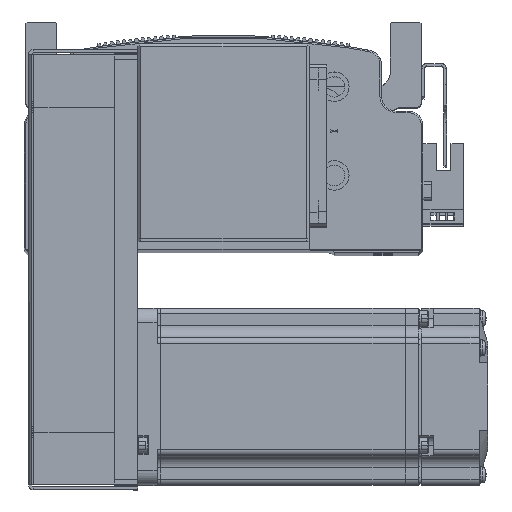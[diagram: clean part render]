
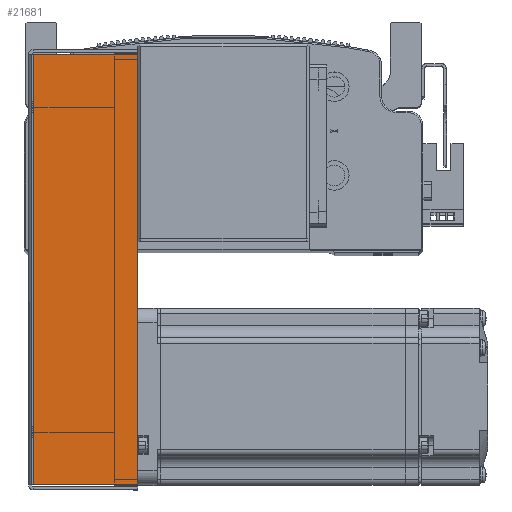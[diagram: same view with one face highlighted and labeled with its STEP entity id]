
A CAD part, top view. The second image highlights one B-rep face of the part: STEP entity #21681.
In plain terms, the highlighted planar face has unit normal (0, 0, 1) as drawn and (0, 0, -1) by its records, which use the part's own axes.
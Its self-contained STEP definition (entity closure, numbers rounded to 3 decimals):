
#8745 = CARTESIAN_POINT ( 'NONE',  ( 72.793, 0.737, -34.5 ) ) ;
#8770 = CARTESIAN_POINT ( 'NONE',  ( -72.793, 36., -34.5 ) ) ;
#8830 = CARTESIAN_POINT ( 'NONE',  ( 72.793, 36., -34.5 ) ) ;
#8891 = CARTESIAN_POINT ( 'NONE',  ( -72.793, 0.737, -34.5 ) ) ;
#12582 = VERTEX_POINT ( 'NONE', #8770 ) ;
#12620 = VERTEX_POINT ( 'NONE', #8830 ) ;
#12647 = VERTEX_POINT ( 'NONE', #8745 ) ;
#12706 = VERTEX_POINT ( 'NONE', #8891 ) ;
#21681 = ADVANCED_FACE ( 'NONE', ( #66934 ), #41409, .F. ) ;
#41409 = PLANE ( 'NONE',  #57512 ) ;
#41426 = CARTESIAN_POINT ( 'NONE',  ( 0., 0., -34.5 ) ) ;
#41458 = DIRECTION ( 'NONE',  ( 0., 0., 1. ) ) ;
#41490 = DIRECTION ( 'NONE',  ( 0., -1., 0. ) ) ;
#43743 = CARTESIAN_POINT ( 'NONE',  ( -72.793, 0., -34.5 ) ) ;
#43761 = DIRECTION ( 'NONE',  ( 0., 1., 0. ) ) ;
#43762 = DIRECTION ( 'NONE',  ( 1., 0., 0. ) ) ;
#43770 = CARTESIAN_POINT ( 'NONE',  ( 0., 36., -34.5 ) ) ;
#44066 = DIRECTION ( 'NONE',  ( 1., 0., 0. ) ) ;
#44087 = CARTESIAN_POINT ( 'NONE',  ( 74.5, 0.737, -34.5 ) ) ;
#44102 = CARTESIAN_POINT ( 'NONE',  ( 72.793, 0., -34.5 ) ) ;
#44130 = DIRECTION ( 'NONE',  ( 0., 1., 0. ) ) ;
#50329 = ORIENTED_EDGE ( 'NONE', *, *, #71917, .T. ) ;
#50368 = ORIENTED_EDGE ( 'NONE', *, *, #71919, .T. ) ;
#50408 = ORIENTED_EDGE ( 'NONE', *, *, #72026, .F. ) ;
#50416 = ORIENTED_EDGE ( 'NONE', *, *, #72037, .F. ) ;
#52041 = EDGE_LOOP ( 'NONE', ( #50408, #50329, #50368, #50416 ) ) ;
#53453 = LINE ( 'NONE', #43743, #53484 ) ;
#53481 = LINE ( 'NONE', #43770, #53498 ) ;
#53484 = VECTOR ( 'NONE', #43761, 1000. ) ;
#53498 = VECTOR ( 'NONE', #43762, 1000. ) ;
#53653 = VECTOR ( 'NONE', #44066, 1000. ) ;
#53665 = VECTOR ( 'NONE', #44130, 1000. ) ;
#53677 = LINE ( 'NONE', #44102, #53665 ) ;
#53690 = LINE ( 'NONE', #44087, #53653 ) ;
#57512 = AXIS2_PLACEMENT_3D ( 'NONE', #41426, #41458, #41490 ) ;
#66934 = FACE_OUTER_BOUND ( 'NONE', #52041, .T. ) ;
#71917 = EDGE_CURVE ( 'NONE', #12706, #12582, #53453, .T. ) ;
#71919 = EDGE_CURVE ( 'NONE', #12582, #12620, #53481, .T. ) ;
#72026 = EDGE_CURVE ( 'NONE', #12706, #12647, #53690, .T. ) ;
#72037 = EDGE_CURVE ( 'NONE', #12647, #12620, #53677, .T. ) ;
